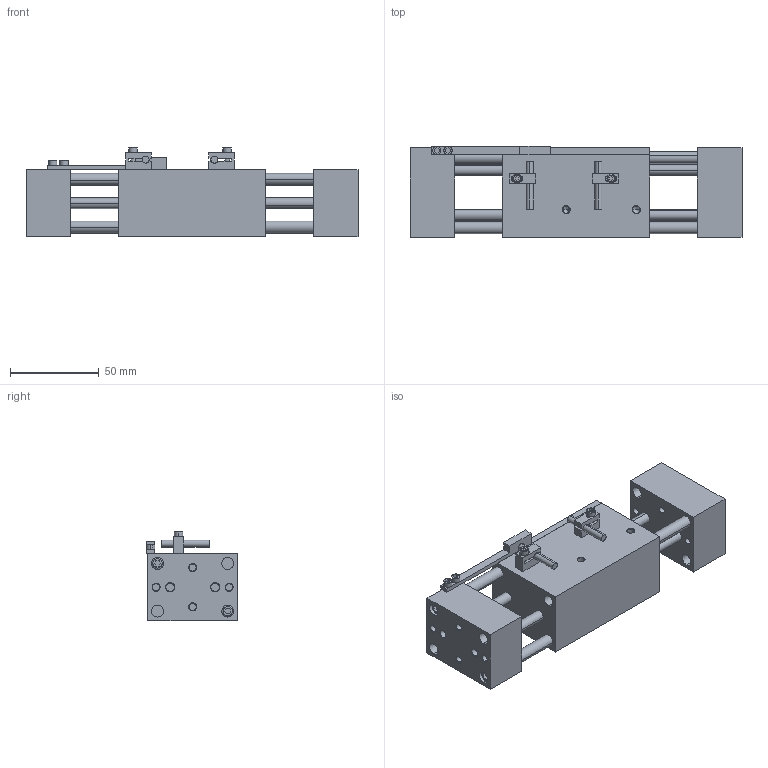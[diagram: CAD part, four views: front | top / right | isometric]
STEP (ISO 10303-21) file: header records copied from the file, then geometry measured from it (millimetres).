
FILE_DESCRIPTION (( 'STEP AP203' ), '1' );
FILE_NAME ('AGW-375-2 OPEN in MM.STEP', '2014-11-03T16:18:06', ( 'setup' ), ( '' ), 'SwSTEP 2.0', 'SolidWorks 2013', '' );
FILE_SCHEMA (( 'CONFIG_CONTROL_DESIGN' ));
Length unit declared in the file: millimetre
Products named in the file (8): AGW-375-2  SENSOR FLAG; AGW-375-2 OPEN in MM; AGW-375-2 BODY; AGW-375-2 TOOL PLATE; AGW-375-2 SENSOR BLOCK; AGW-375-2 SENSOR; AGW-375-2 PROD; AGW-375-2 GUIDE ROD
Assembly tree (16 placements, depth 2):
  AGW-375-2 OPEN in MM
    AGW-375-2 BODY
    AGW-375-2 TOOL PLATE  x2
    AGW-375-2 SENSOR BLOCK  x2
    AGW-375-2 SENSOR  x2
    AGW-375-2 PROD  x4
    AGW-375-2 GUIDE ROD  x4
    AGW-375-2  SENSOR FLAG
Bounding box: 187.45 x 51.51 x 50.8 mm (x, y, z)
Volume: 245766.3 mm3; surface area: 67583.2 mm2
Topology: 20 solids, 20 shells, 396 faces, 948 edges, 590 vertices
Faces by surface type: plane 158, cylinder 142, cone 84, torus 12
Entity records: 8788 total; most frequent: CARTESIAN_POINT 1465, DIRECTION 1388, ORIENTED_EDGE 1216, EDGE_CURVE 608, AXIS2_PLACEMENT_3D 523, VERTEX_POINT 384, LINE 342, VECTOR 342
